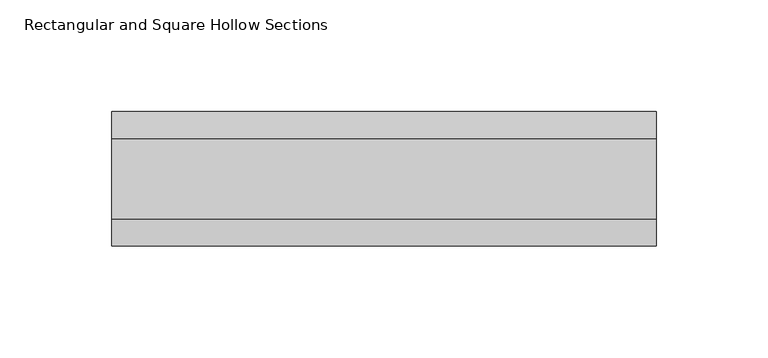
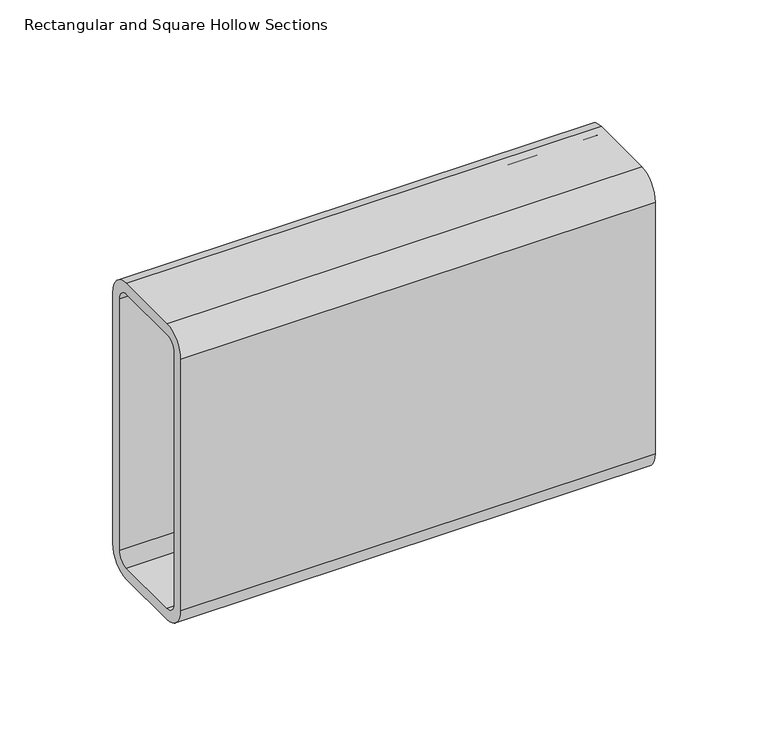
"""IFC4 building model written with IfcOpenShell, lengths in millimetres: beam geometry, Rectangular and Square Hollow Sections : TREC160x60x6."""

from ifc_helpers import new_model, si_unit, point, frame, frame_2d, origin, place, context, project, spatial, polyline, circle_curve, trimmed, segment, composite_curve, outline, extrude, source, transform, mapped, element, save


def rectangular_and_square_hollow_sections_7d53bc1a(model_context):
    return source(origin(), model_context, "Body", "SweptSolid", [
        extrude(outline(composite_curve([segment(polyline([(30.0, 68.0), (30.0, -68.0)]), True, "CONTINUOUS"), segment(trimmed(circle_curve(frame_2d((18.0, -68.0)), 12.0), [point((30.0, -68.0))], [point((18.0, -80.0))], False, "CARTESIAN"), True, "CONTINUOUS"), segment(polyline([(18.0, -80.0), (-18.0, -80.0)]), True, "CONTINUOUS"), segment(trimmed(circle_curve(frame_2d((-18.0, -68.0)), 12.0), [point((-18.0, -80.0))], [point((-30.0, -68.0))], False, "CARTESIAN"), True, "CONTINUOUS"), segment(polyline([(-30.0, -68.0), (-30.0, 68.0)]), True, "CONTINUOUS"), segment(trimmed(circle_curve(frame_2d((-18.0, 68.0)), 12.0), [point((-30.0, 68.0))], [point((-18.0, 80.0))], False, "CARTESIAN"), True, "CONTINUOUS"), segment(polyline([(-18.0, 80.0), (18.0, 80.0)]), True, "CONTINUOUS"), segment(trimmed(circle_curve(frame_2d((18.0, 68.0)), 12.0), [point((18.0, 80.0))], [point((30.0, 68.0))], False, "CARTESIAN"), True, "CONTINUOUS")], self_intersect=False), holes=[composite_curve([segment(trimmed(circle_curve(frame_2d((-18.0, 68.0)), 6.0), [point((-18.0, 74.0))], [point((-24.0, 68.0))], True, "CARTESIAN"), True, "CONTINUOUS"), segment(polyline([(-24.0, 68.0), (-24.0, -68.0)]), True, "CONTINUOUS"), segment(trimmed(circle_curve(frame_2d((-18.0, -68.0)), 6.0), [point((-24.0, -68.0))], [point((-18.0, -74.0))], True, "CARTESIAN"), True, "CONTINUOUS"), segment(polyline([(-18.0, -74.0), (18.0, -74.0)]), True, "CONTINUOUS"), segment(trimmed(circle_curve(frame_2d((18.0, -68.0)), 6.0), [point((18.0, -74.0))], [point((24.0, -68.0))], True, "CARTESIAN"), True, "CONTINUOUS"), segment(polyline([(24.0, -68.0), (24.0, 68.0)]), True, "CONTINUOUS"), segment(trimmed(circle_curve(frame_2d((18.0, 68.0)), 6.0), [point((24.0, 68.0))], [point((18.0, 74.0))], True, "CARTESIAN"), True, "CONTINUOUS"), segment(polyline([(18.0, 74.0), (-18.0, 74.0)]), True, "CONTINUOUS")], self_intersect=False)]), frame((-121.5, 0.0, 0.0), z_axis=(1.0, 0.0, 0.0), x_axis=(0.0, 1.0, 0.0)), (0.0, 0.0, 1.0), 243.0),
    ])


if __name__ == "__main__":
    model = new_model("IFC4")
    model_context = context("Model", 3, world=origin())
    ifc_project = project(units=[si_unit("LENGTHUNIT", "METRE", prefix="MILLI")], contexts=[model_context])
    site = spatial("IfcSite", under=ifc_project)
    building = spatial("IfcBuilding", under=site)
    placement = place(None, origin())
    rectangular_and_square_hollow_sections_shape = rectangular_and_square_hollow_sections_7d53bc1a(model_context)
    element("IfcBeam", 1, ObjectType="Rectangular and Square Hollow Sections : TREC160x60x6", at=placement, inside=building, context=model_context, shape_type="MappedRepresentation", body=[
        mapped(rectangular_and_square_hollow_sections_shape, transform((0.0, 0.0, 0.0), x_axis=(1.0, 0.0, 0.0), y_axis=(0.0, 1.0, 0.0), z_axis=(0.0, 0.0, 1.0))),
    ])
    save(model, "model.ifc")
